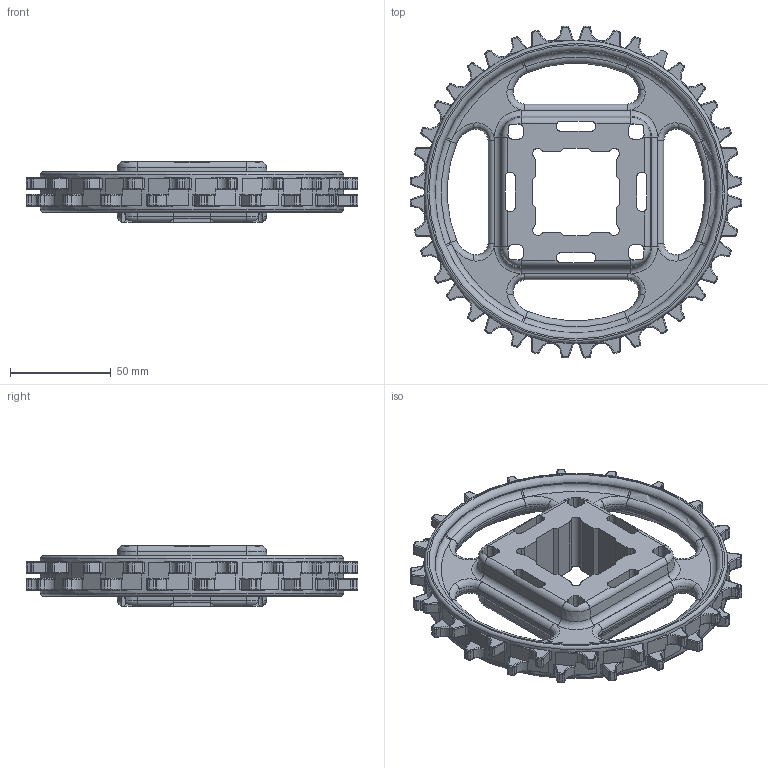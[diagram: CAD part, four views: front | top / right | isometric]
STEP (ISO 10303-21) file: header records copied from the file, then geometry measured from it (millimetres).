
FILE_DESCRIPTION(/* description */ (''),/* implementation_level */ '2;1');
FILE_NAME(/* name */ '2500-20T-s40.stp',/* time_stamp */ '2024-04-23T11:10:19+08:00',/* author */ (''),/* organization */ (''),/* preprocessor_version */ 'ST-DEVELOPER v15',/* originating_system */ 'SIEMENS PLM Software NX 8.5',/* authorisation */ '');
FILE_SCHEMA (('AP203_CONFIGURATION_CONTROLLED_3D_DESIGN_OF_MECHANICAL_PARTS_AND_ASSEMBLIES_MIM_LF { 1 0 10303 403 2 1 2}'));
Length unit declared in the file: millimetre
Products named in the file (1): Admi0C901E38bjpz
Bounding box: 164.68 x 164.68 x 29.99 mm (x, y, z)
Volume: 186757.2 mm3; surface area: 61343 mm2
Topology: 1 solids, 1 shells, 1321 faces, 3286 edges, 1967 vertices
Faces by surface type: bspline 393, cylinder 389, torus 247, plane 234, revolution 40, cone 18
Full cylindrical faces by diameter (mm): 150.44 x1
Entity records: 56925 total; most frequent: CARTESIAN_POINT 19388, ORIENTED_EDGE 6550, DIRECTION 5538, EDGE_CURVE 3275, AXIS2_PLACEMENT_3D 2281, VERTEX_POINT 1963, EDGE_LOOP 1354, CIRCLE 1336
